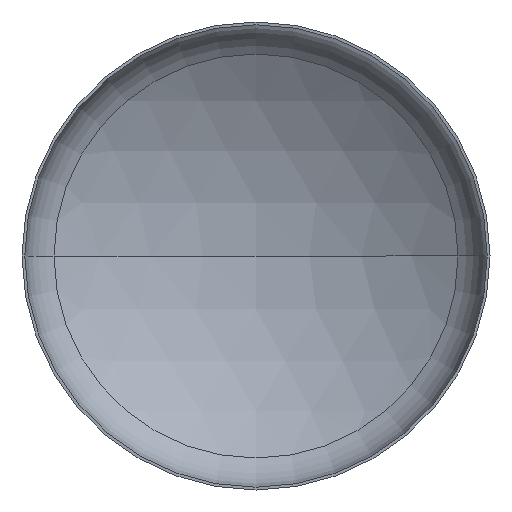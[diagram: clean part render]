
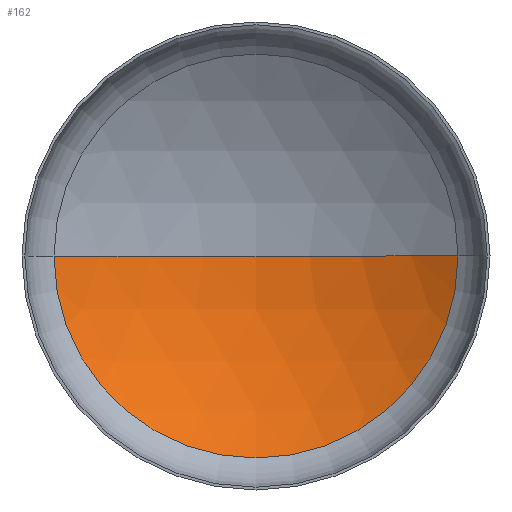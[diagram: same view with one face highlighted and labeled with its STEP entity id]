
A CAD part, front view. The second image highlights one B-rep face of the part: STEP entity #162.
In plain terms, the highlighted spherical face has radius 394 mm.
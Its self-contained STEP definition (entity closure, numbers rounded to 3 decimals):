
#51 = CARTESIAN_POINT ( 'NONE',  ( 215.791, 58.652, 0. ) ) ;
#53 = DIRECTION ( 'NONE',  ( 1., 0., 0. ) ) ;
#54 = DIRECTION ( 'NONE',  ( -1., 0., 0. ) ) ;
#73 = EDGE_LOOP ( 'NONE', ( #111, #390, #282 ) ) ;
#79 = DIRECTION ( 'NONE',  ( 0., 1., 0. ) ) ;
#80 = DIRECTION ( 'NONE',  ( 0., 0., 1. ) ) ;
#82 = DIRECTION ( 'NONE',  ( 0., 0., 1. ) ) ;
#84 = CIRCLE ( 'NONE', #354, 215.791 ) ;
#111 = ORIENTED_EDGE ( 'NONE', *, *, #227, .F. ) ;
#114 = CARTESIAN_POINT ( 'NONE',  ( 0., -271., 0. ) ) ;
#118 = CIRCLE ( 'NONE', #199, 394. ) ;
#136 = CARTESIAN_POINT ( 'NONE',  ( 0., 58.652, 0. ) ) ;
#156 = EDGE_CURVE ( 'NONE', #177, #410, #118, .T. ) ;
#162 = ADVANCED_FACE ( 'NONE', ( #257 ), #290, .F. ) ;
#177 = VERTEX_POINT ( 'NONE', #369 ) ;
#180 = DIRECTION ( 'NONE',  ( -1., 0., 0. ) ) ;
#190 = AXIS2_PLACEMENT_3D ( 'NONE', #114, #80, #54 ) ;
#199 = AXIS2_PLACEMENT_3D ( 'NONE', #357, #334, #180 ) ;
#206 = CIRCLE ( 'NONE', #311, 394. ) ;
#222 = EDGE_CURVE ( 'NONE', #235, #410, #206, .T. ) ;
#223 = CARTESIAN_POINT ( 'NONE',  ( 0., 123., 0. ) ) ;
#227 = EDGE_CURVE ( 'NONE', #235, #177, #84, .T. ) ;
#235 = VERTEX_POINT ( 'NONE', #51 ) ;
#251 = CARTESIAN_POINT ( 'NONE',  ( 0., -271., 0. ) ) ;
#257 = FACE_OUTER_BOUND ( 'NONE', #73, .T. ) ;
#282 = ORIENTED_EDGE ( 'NONE', *, *, #156, .F. ) ;
#290 = SPHERICAL_SURFACE ( 'NONE', #190, 394. ) ;
#311 = AXIS2_PLACEMENT_3D ( 'NONE', #251, #82, #53 ) ;
#334 = DIRECTION ( 'NONE',  ( 0., 0., -1. ) ) ;
#354 = AXIS2_PLACEMENT_3D ( 'NONE', #136, #79, #395 ) ;
#357 = CARTESIAN_POINT ( 'NONE',  ( 0., -271., 0. ) ) ;
#369 = CARTESIAN_POINT ( 'NONE',  ( -215.791, 58.652, 0. ) ) ;
#390 = ORIENTED_EDGE ( 'NONE', *, *, #222, .T. ) ;
#395 = DIRECTION ( 'NONE',  ( -1., 0., 0. ) ) ;
#410 = VERTEX_POINT ( 'NONE', #223 ) ;
